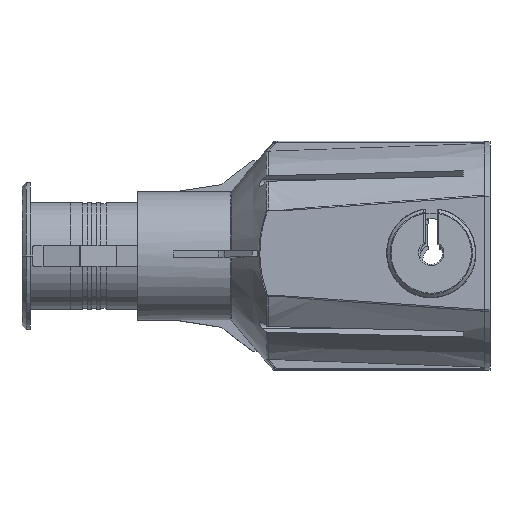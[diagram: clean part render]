
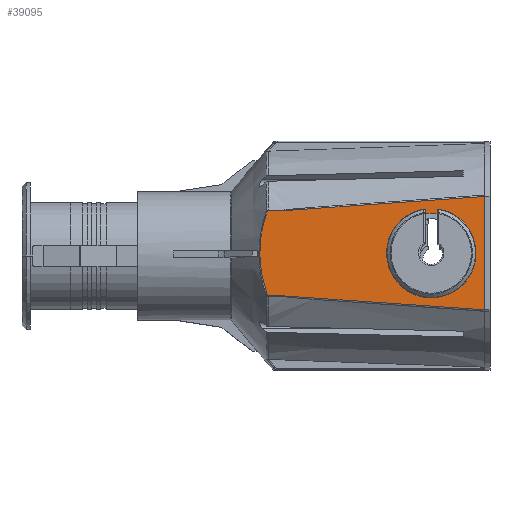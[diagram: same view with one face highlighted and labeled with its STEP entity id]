
A CAD part, left-side view. The second image highlights one B-rep face of the part: STEP entity #39095.
In plain terms, the highlighted planar face has unit normal (-0.999, 0.035, 0.027) as drawn and (-0.999, 0.035, 0) by its records, which use the part's own axes.
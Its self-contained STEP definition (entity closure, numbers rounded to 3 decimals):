
#33443=CARTESIAN_POINT('',(-39.498,-95.,
-21.231));
#33988=CARTESIAN_POINT('',(-36.652,-13.505,
15.505));
#34001=CARTESIAN_POINT('',(-36.665,-13.871,
15.923));
#34002=CARTESIAN_POINT('',(-36.664,-13.829,
15.923));
#34003=CARTESIAN_POINT('',(-36.661,-13.752,
15.896));
#34004=CARTESIAN_POINT('',(-36.657,-13.649,
15.8));
#34005=CARTESIAN_POINT('',(-36.655,-13.569,
15.672));
#34006=CARTESIAN_POINT('',(-36.653,-13.525,
15.565));
#34007=CARTESIAN_POINT('',(-36.652,-13.505,
15.505));
#34009=DIRECTION('',(-0.035,-0.999,0.007));
#34010=VECTOR('',#34009,5.888);
#34011=CARTESIAN_POINT('',(-36.665,-13.871,
15.923));
#34012=LINE('',#34011,#34010);
#34013=DIRECTION('',(-0.035,-0.997,0.07));
#34014=VECTOR('',#34013,75.475);
#34015=CARTESIAN_POINT('',(-36.871,-19.755,
15.967));
#34016=LINE('',#34015,#34014);
#34017=DIRECTION('',(0.,0.,-1.));
#34018=VECTOR('',#34017,42.463);
#34019=CARTESIAN_POINT('',(-39.498,-95.,
21.231));
#34020=LINE('',#34019,#34018);
#34021=DIRECTION('',(0.035,0.997,0.07));
#34022=VECTOR('',#34021,75.475);
#34023=CARTESIAN_POINT('',(-39.498,-95.,
-21.231));
#34024=LINE('',#34023,#34022);
#34025=DIRECTION('',(0.035,0.999,0.007));
#34026=VECTOR('',#34025,5.888);
#34027=CARTESIAN_POINT('',(-36.871,-19.755,
-15.967));
#34028=LINE('',#34027,#34026);
#34029=CARTESIAN_POINT('',(-36.652,-13.505,
-15.505));
#34030=CARTESIAN_POINT('',(-36.628,-12.808,
-13.496));
#34031=CARTESIAN_POINT('',(-36.589,-11.682,
-9.433));
#34032=CARTESIAN_POINT('',(-36.555,-10.716,
-3.159));
#34033=CARTESIAN_POINT('',(-36.555,-10.716,
3.159));
#34034=CARTESIAN_POINT('',(-36.589,-11.682,
9.433));
#34035=CARTESIAN_POINT('',(-36.628,-12.808,
13.496));
#34036=CARTESIAN_POINT('',(-36.652,-13.505,
15.505));
#34197=CARTESIAN_POINT('',(-36.652,-13.505,
-15.505));
#34198=CARTESIAN_POINT('',(-36.653,-13.523,
-15.558));
#34199=CARTESIAN_POINT('',(-36.654,-13.56,
-15.651));
#34200=CARTESIAN_POINT('',(-36.657,-13.623,
-15.76));
#34201=CARTESIAN_POINT('',(-36.659,-13.688,
-15.84));
#34202=CARTESIAN_POINT('',(-36.662,-13.776,
-15.907));
#34203=CARTESIAN_POINT('',(-36.664,-13.838,
-15.922));
#34204=CARTESIAN_POINT('',(-36.665,-13.871,
-15.923));
#34376=CARTESIAN_POINT('',(-38.8,-75.,
15.));
#34377=CARTESIAN_POINT('',(-38.835,-75.995,
15.));
#34378=CARTESIAN_POINT('',(-38.903,-77.941,
14.806));
#34379=CARTESIAN_POINT('',(-39.002,-80.78,
13.947));
#34380=CARTESIAN_POINT('',(-39.093,-83.388,
12.551));
#34381=CARTESIAN_POINT('',(-39.173,-85.676,
10.674));
#34382=CARTESIAN_POINT('',(-39.238,-87.553,
8.386));
#34383=CARTESIAN_POINT('',(-39.287,-88.948,
5.778));
#34384=CARTESIAN_POINT('',(-39.317,-89.807,
2.939));
#34385=CARTESIAN_POINT('',(-39.324,-90.,
0.995));
#34386=CARTESIAN_POINT('',(-39.324,-90.,
0.001));
#34388=CARTESIAN_POINT('',(-39.324,-90.,
0.001));
#34389=CARTESIAN_POINT('',(-39.324,-90.,
-0.992));
#34390=CARTESIAN_POINT('',(-39.317,-89.807,
-2.938));
#34391=CARTESIAN_POINT('',(-39.287,-88.948,
-5.777));
#34392=CARTESIAN_POINT('',(-39.238,-87.554,
-8.385));
#34393=CARTESIAN_POINT('',(-39.173,-85.677,
-10.673));
#34394=CARTESIAN_POINT('',(-39.093,-83.389,
-12.551));
#34395=CARTESIAN_POINT('',(-39.002,-80.781,
-13.947));
#34396=CARTESIAN_POINT('',(-38.903,-77.941,
-14.806));
#34397=CARTESIAN_POINT('',(-38.835,-75.995,
-15.));
#34398=CARTESIAN_POINT('',(-38.8,-75.,
-15.));
#34456=CARTESIAN_POINT('',(-38.8,-75.,
-15.));
#34457=CARTESIAN_POINT('',(-38.765,-74.005,
-15.));
#34458=CARTESIAN_POINT('',(-38.697,-72.059,
-14.806));
#34459=CARTESIAN_POINT('',(-38.598,-69.22,
-13.947));
#34460=CARTESIAN_POINT('',(-38.507,-66.612,
-12.551));
#34461=CARTESIAN_POINT('',(-38.427,-64.324,
-10.674));
#34462=CARTESIAN_POINT('',(-38.362,-62.447,
-8.386));
#34463=CARTESIAN_POINT('',(-38.313,-61.052,
-5.778));
#34464=CARTESIAN_POINT('',(-38.283,-60.193,
-2.939));
#34465=CARTESIAN_POINT('',(-38.276,-60.,
-0.995));
#34466=CARTESIAN_POINT('',(-38.276,-60.,
-0.001));
#34468=CARTESIAN_POINT('',(-38.276,-60.,
-0.001));
#34469=CARTESIAN_POINT('',(-38.276,-60.,
0.992));
#34470=CARTESIAN_POINT('',(-38.283,-60.193,
2.938));
#34471=CARTESIAN_POINT('',(-38.313,-61.052,
5.777));
#34472=CARTESIAN_POINT('',(-38.362,-62.446,
8.385));
#34473=CARTESIAN_POINT('',(-38.427,-64.323,
10.673));
#34474=CARTESIAN_POINT('',(-38.507,-66.611,
12.551));
#34475=CARTESIAN_POINT('',(-38.598,-69.219,
13.947));
#34476=CARTESIAN_POINT('',(-38.697,-72.059,
14.806));
#34477=CARTESIAN_POINT('',(-38.765,-74.005,
15.));
#34478=CARTESIAN_POINT('',(-38.8,-75.,
15.));
#37333=VERTEX_POINT('',#33443);
#37334=CARTESIAN_POINT('',(-39.498,-95.,
21.231));
#37335=VERTEX_POINT('',#37334);
#37492=VERTEX_POINT('',#33988);
#37493=CARTESIAN_POINT('',(-36.665,-13.871,
15.923));
#37494=VERTEX_POINT('',#37493);
#37495=VERTEX_POINT('',#34029);
#37496=CARTESIAN_POINT('',(-36.871,-19.755,
15.967));
#37497=VERTEX_POINT('',#37496);
#37498=CARTESIAN_POINT('',(-36.871,-19.755,
-15.967));
#37499=VERTEX_POINT('',#37498);
#37500=CARTESIAN_POINT('',(-36.665,-13.871,
-15.923));
#37501=VERTEX_POINT('',#37500);
#37502=VERTEX_POINT('',#34388);
#37503=VERTEX_POINT('',#34398);
#37504=VERTEX_POINT('',#34376);
#37505=VERTEX_POINT('',#34468);
#39065=CARTESIAN_POINT('',(-36.277,-2.751,-39.5));
#39066=DIRECTION('',(-0.999,0.035,0.));
#39067=DIRECTION('',(-0.035,-0.999,0.));
#39068=AXIS2_PLACEMENT_3D('',#39065,#39066,#39067);
#39069=PLANE('',#39068);
#39070=ORIENTED_EDGE('',*,*,#38986,.F.);
#39072=ORIENTED_EDGE('',*,*,#39071,.T.);
#39074=ORIENTED_EDGE('',*,*,#39073,.T.);
#39075=ORIENTED_EDGE('',*,*,#38563,.T.);
#39077=ORIENTED_EDGE('',*,*,#39076,.T.);
#39079=ORIENTED_EDGE('',*,*,#39078,.T.);
#39081=ORIENTED_EDGE('',*,*,#39080,.F.);
#39082=ORIENTED_EDGE('',*,*,#39056,.T.);
#39083=EDGE_LOOP('',(#39070,#39072,#39074,#39075,#39077,#39079,#39081,#39082));
#39084=FACE_OUTER_BOUND('',#39083,.F.);
#39086=ORIENTED_EDGE('',*,*,#39085,.F.);
#39088=ORIENTED_EDGE('',*,*,#39087,.F.);
#39090=ORIENTED_EDGE('',*,*,#39089,.F.);
#39092=ORIENTED_EDGE('',*,*,#39091,.F.);
#39093=EDGE_LOOP('',(#39086,#39088,#39090,#39092));
#39094=FACE_BOUND('',#39093,.F.);
#39095=ADVANCED_FACE('',(#39084,#39094),#39069,.T.);
#34008=B_SPLINE_CURVE_WITH_KNOTS('',3,(#34001,#34002,#34003,#34004,#34005,
#34006,#34007),.UNSPECIFIED.,.F.,.F.,(4,1,1,1,4),(0.,0.25,0.5,0.75,
1.),.UNSPECIFIED.);
#34037=B_SPLINE_CURVE_WITH_KNOTS('',3,(#34029,#34030,#34031,#34032,#34033,
#34034,#34035,#34036),.UNSPECIFIED.,.F.,.F.,(4,1,1,1,1,4),(0.,0.2,0.4,
0.6,0.8,1.),.UNSPECIFIED.);
#34205=B_SPLINE_CURVE_WITH_KNOTS('',3,(#34197,#34198,#34199,#34200,#34201,
#34202,#34203,#34204),.UNSPECIFIED.,.F.,.F.,(4,1,1,1,1,4),(0.,0.2,0.4,
0.6,0.8,1.),.UNSPECIFIED.);
#34387=B_SPLINE_CURVE_WITH_KNOTS('',3,(#34376,#34377,#34378,#34379,#34380,
#34381,#34382,#34383,#34384,#34385,#34386),.UNSPECIFIED.,.F.,.F.,(4,1,1,1,1,1,1,
1,4),(0.,0.125,0.25,0.375,0.5,0.625,0.75,0.875,1.),
.UNSPECIFIED.);
#34399=B_SPLINE_CURVE_WITH_KNOTS('',3,(#34388,#34389,#34390,#34391,#34392,
#34393,#34394,#34395,#34396,#34397,#34398),.UNSPECIFIED.,.F.,.F.,(4,1,1,1,1,1,1,
1,4),(0.,0.125,0.25,0.375,0.5,0.625,0.75,0.875,1.),
.UNSPECIFIED.);
#34467=B_SPLINE_CURVE_WITH_KNOTS('',3,(#34456,#34457,#34458,#34459,#34460,
#34461,#34462,#34463,#34464,#34465,#34466),.UNSPECIFIED.,.F.,.F.,(4,1,1,1,1,1,1,
1,4),(0.,0.125,0.25,0.375,0.5,0.625,0.75,0.875,1.),
.UNSPECIFIED.);
#34479=B_SPLINE_CURVE_WITH_KNOTS('',3,(#34468,#34469,#34470,#34471,#34472,
#34473,#34474,#34475,#34476,#34477,#34478),.UNSPECIFIED.,.F.,.F.,(4,1,1,1,1,1,1,
1,4),(0.,0.125,0.25,0.375,0.5,0.625,0.75,0.875,1.),
.UNSPECIFIED.);
#38563=EDGE_CURVE('',#37335,#37333,#34020,.T.);
#38986=EDGE_CURVE('',#37494,#37492,#34008,.T.);
#39056=EDGE_CURVE('',#37495,#37492,#34037,.T.);
#39071=EDGE_CURVE('',#37494,#37497,#34012,.T.);
#39073=EDGE_CURVE('',#37497,#37335,#34016,.T.);
#39076=EDGE_CURVE('',#37333,#37499,#34024,.T.);
#39078=EDGE_CURVE('',#37499,#37501,#34028,.T.);
#39080=EDGE_CURVE('',#37495,#37501,#34205,.T.);
#39085=EDGE_CURVE('',#37502,#37503,#34399,.T.);
#39087=EDGE_CURVE('',#37504,#37502,#34387,.T.);
#39089=EDGE_CURVE('',#37505,#37504,#34479,.T.);
#39091=EDGE_CURVE('',#37503,#37505,#34467,.T.);
